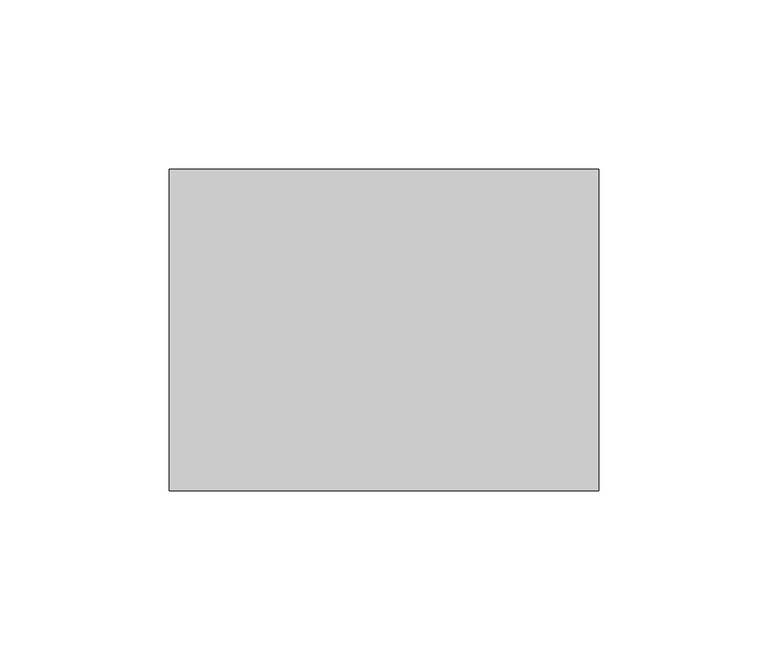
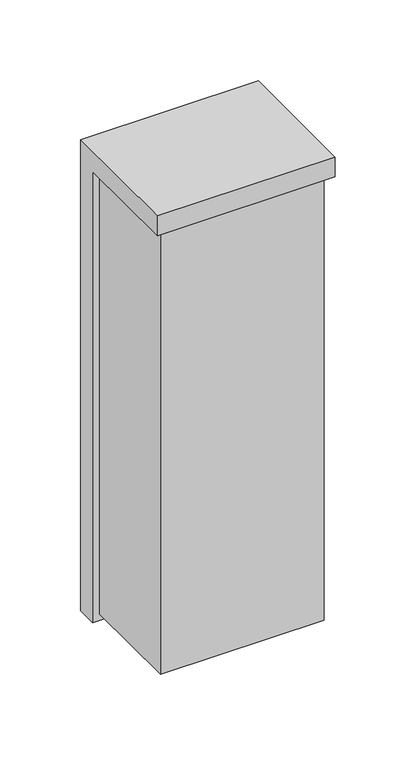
"""IFC4 building model written with IfcOpenShell, lengths in millimetres: light fixture geometry, GENILED_Светильник светодиодный_Sova : Sova 127x95x356 18Вт/3000К/4000К/5000К IP66."""

from ifc_helpers import new_model, si_unit, frame, origin, place, context, project, spatial, polyline, outline, extrude, source, transform, mapped, element, save


def light_fixture_68ade39e(model_context):
    return source(origin(), model_context, "Body", "SweptSolid", [
        extrude(outline(polyline([(58.5, -15.0), (58.5, -90.0), (-58.5, -90.0), (-58.5, -15.0), (58.5, -15.0)])), frame((0.0, 0.0, 5.0), z_axis=(0.0, 0.0, 1.0), x_axis=(1.0, 0.0, 0.0)), (0.0, 0.0, 1.0), 336.0),
        extrude(outline(polyline([(-95.0, 341.0), (-95.0, 356.0), (0.0, 356.0), (0.0, 0.0), (-15.0, 0.0), (-15.0, 341.0), (-95.0, 341.0)])), frame((-63.5, 0.0, 0.0), z_axis=(1.0, 0.0, 0.0), x_axis=(0.0, 1.0, 0.0)), (0.0, 0.0, 1.0), 127.0),
    ])


if __name__ == "__main__":
    model = new_model("IFC4")
    model_context = context("Model", 3, world=origin())
    ifc_project = project(units=[si_unit("LENGTHUNIT", "METRE", prefix="MILLI")], contexts=[model_context])
    site = spatial("IfcSite", under=ifc_project)
    building = spatial("IfcBuilding", under=site)
    placement = place(None, origin())
    light_fixture_shape = light_fixture_68ade39e(model_context)
    element("IfcLightFixture", 1, ObjectType="GENILED_Светильник светодиодный_Sova : Sova 127x95x356 18Вт/3000К/4000К/5000К IP66", at=placement, inside=building, context=model_context, shape_type="MappedRepresentation", body=[
        mapped(light_fixture_shape, transform((0.0, 0.0, 0.0), x_axis=(1.0, 0.0, 0.0), y_axis=(0.0, 1.0, 0.0), z_axis=(0.0, 0.0, 1.0))),
    ])
    save(model, "model.ifc")
